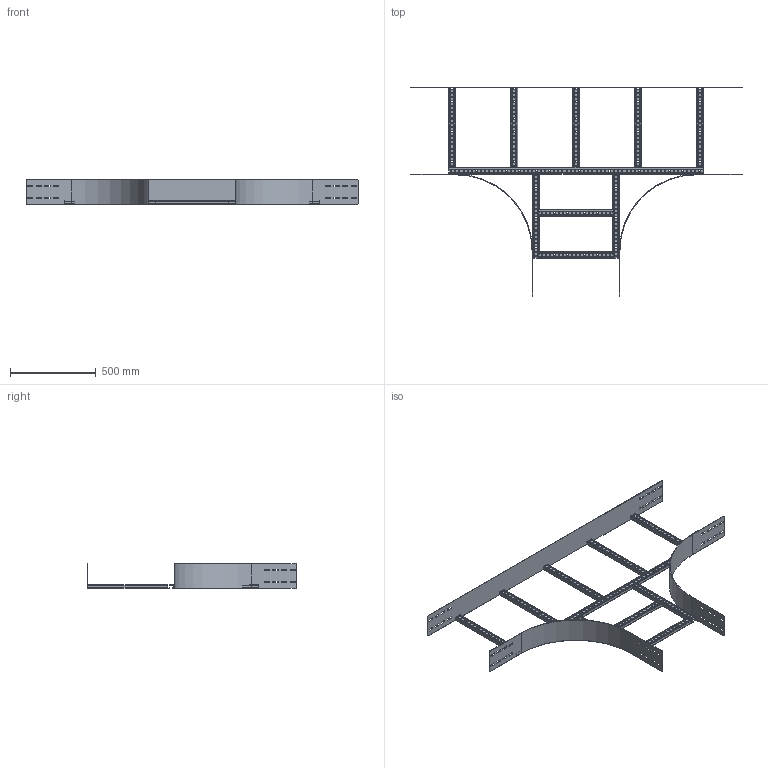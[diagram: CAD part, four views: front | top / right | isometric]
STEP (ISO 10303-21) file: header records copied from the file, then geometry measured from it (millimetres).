
FILE_DESCRIPTION(('Creo Elements/Direct Modeling STEP Export'),'2;1');
FILE_NAME('WPTP15-50-45.stp','2016-06-03T 8:38:45',(''),(''),'PTC Creo Elements/Direct Modeling STEP processor for AP214 (Solid Model)','PTC Creo Elements/Direct Modeling 19.0C 15-Aug-2015 (C) Parametric Technology GmbH','');
FILE_SCHEMA(('AUTOMOTIVE_DESIGN { 1 0 10303 214 1 1 1 1 }'));
Length unit declared in the file: millimetre
Products named in the file (7): WPTPS50; WPKS50.1; WPBI_150.1; WPKSP2_300.1; WPKSP1-50; WPAAG_150-50; WPTP15-50-45
Assembly tree (13 placements, depth 2):
  WPTP15-50-45
    WPAAG_150-50
    WPBI_150.1  x2
    WPKS50.1  x2
    WPTPS50  x5
    WPKSP2_300.1  x2
    WPKSP1-50
Bounding box: 1935 x 1223 x 145 mm (x, y, z)
Volume: 2693011.8 mm3; surface area: 2425243.5 mm2
Topology: 13 solids, 13 shells, 1560 faces, 4602 edges, 3068 vertices
Faces by surface type: plane 904, cylinder 656
Entity records: 26846 total; most frequent: CARTESIAN_POINT 4617, ORIENTED_EDGE 4608, DIRECTION 4486, EDGE_CURVE 2304, VECTOR 1676, LINE 1676, VERTEX_POINT 1536, AXIS2_PLACEMENT_3D 1405
